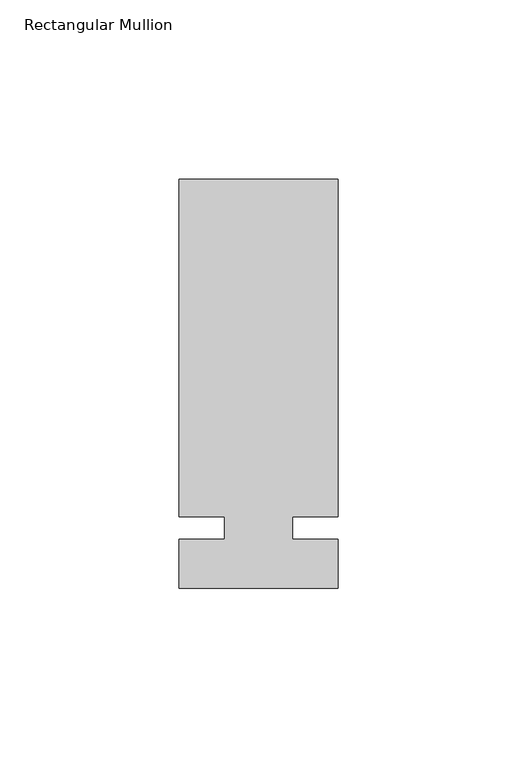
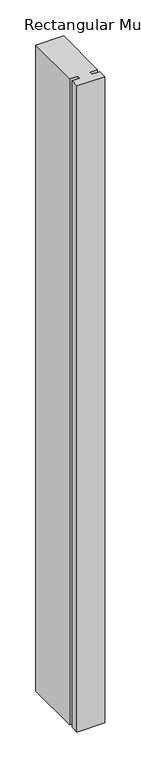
"""IFC4 building model written with IfcOpenShell, lengths in millimetres: member geometry, Rectangular Mullion : Kawneer-TRIFAB_VG_450_BACK_SB_Vertical."""

from ifc_helpers import new_model, si_unit, frame, origin, place, context, project, spatial, polyline, outline, extrude, source, transform, mapped, element, save


def rectangular_mullion_329eebb0(model_context):
    return source(origin(), model_context, "Body", "SweptSolid", [
        extrude(outline(polyline([(22.225, -16.8532346), (-22.225, -16.8532346), (-22.225, -3.175), (-9.525, -3.175), (-9.525, 3.175), (-22.225, 3.175), (-22.225, 97.4467654), (22.225, 97.4467654), (22.225, 3.175), (9.5232296, 3.175), (9.5232296, -3.175), (22.225, -3.175), (22.225, -16.8532346)])), frame((0.0, 0.0, -1098.55), z_axis=(0.0, 0.0, 1.0), x_axis=(1.0, 0.0, 0.0)), (0.0, 0.0, 1.0), 1098.55),
    ])


if __name__ == "__main__":
    model = new_model("IFC4")
    model_context = context("Model", 3, world=origin())
    ifc_project = project(units=[si_unit("LENGTHUNIT", "METRE", prefix="MILLI")], contexts=[model_context])
    site = spatial("IfcSite", under=ifc_project)
    building = spatial("IfcBuilding", under=site)
    placement = place(None, origin())
    rectangular_mullion_shape = rectangular_mullion_329eebb0(model_context)
    element("IfcMember", 1, ObjectType="Rectangular Mullion : Kawneer-TRIFAB_VG_450_BACK_SB_Vertical", at=placement, inside=building, context=model_context, shape_type="MappedRepresentation", body=[
        mapped(rectangular_mullion_shape, transform((0.0, 0.0, 0.0), x_axis=(1.0, 0.0, 0.0), y_axis=(0.0, 1.0, 0.0), z_axis=(0.0, 0.0, 1.0))),
    ])
    save(model, "model.ifc")
